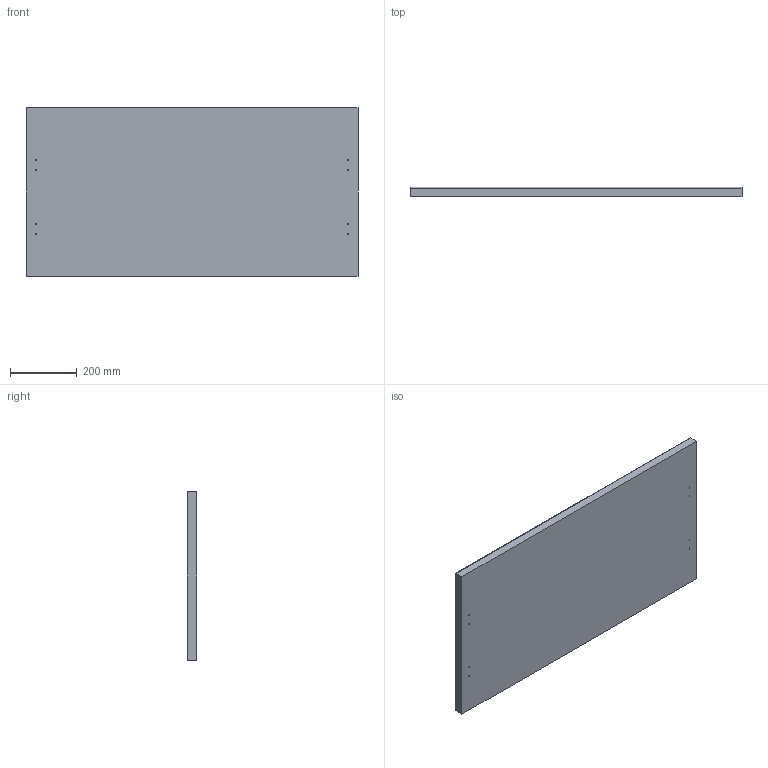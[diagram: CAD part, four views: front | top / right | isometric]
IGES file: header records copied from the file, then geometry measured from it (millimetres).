
Start section: SolidWorks IGES file using analytic representation for surfaces
Global section: file name: \\PDM-SQL\Technolodzy\WYROBY\_Nowa dokumentacja\BLAT VIGOUR - 167940, 167941, 167942, 167943, 167944, 167945\100.IGS; native system: SolidWorks 2012; preprocessor: SolidWorks 2012; author: rkopecki; date: 200625.131045; units: millimetre
Bounding box: 994 x 28 x 504 mm (x, y, z)
Surface area: 1083423.3 mm2 (no closed solid volume)
Topology: 0 solids, 0 shells, 32 faces, 512 edges, 512 vertices
Faces by surface type: revolution 18, bspline 14
